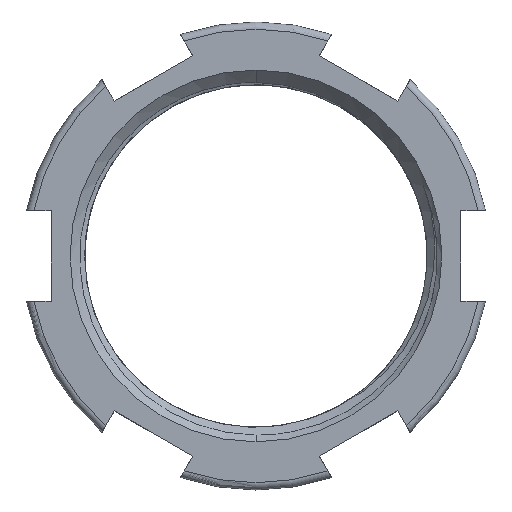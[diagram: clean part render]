
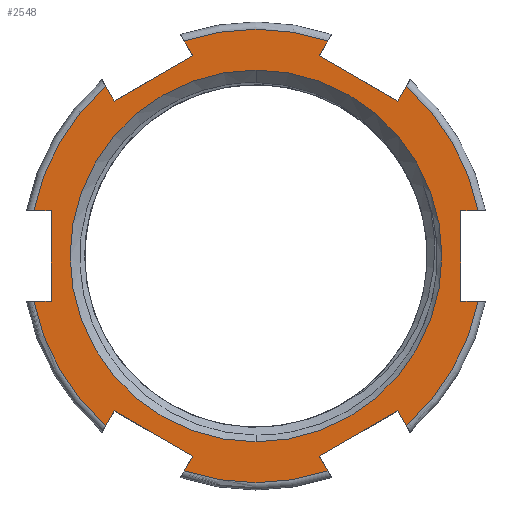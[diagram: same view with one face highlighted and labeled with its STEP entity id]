
A CAD part, top view. The second image highlights one B-rep face of the part: STEP entity #2548.
In plain terms, the highlighted planar face has unit normal (0, 0, 1).
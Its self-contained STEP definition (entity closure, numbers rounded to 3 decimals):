
#452=DIRECTION('',(0.866,0.5,0.));
#453=VECTOR('',#452,2.5);
#454=CARTESIAN_POINT('',(-3.908,4.268,1.25));
#455=LINE('',#454,#453);
#459=DIRECTION('',(-0.5,0.866,0.));
#460=VECTOR('',#459,0.474);
#461=CARTESIAN_POINT('',(-1.742,5.518,1.25));
#462=LINE('',#461,#460);
#466=DIRECTION('',(-0.5,-0.866,0.));
#467=VECTOR('',#466,0.474);
#468=CARTESIAN_POINT('',(1.979,5.928,1.25));
#469=LINE('',#468,#467);
#473=DIRECTION('',(0.866,-0.5,0.));
#474=VECTOR('',#473,2.5);
#475=CARTESIAN_POINT('',(1.742,5.518,1.25));
#476=LINE('',#475,#474);
#480=DIRECTION('',(0.5,0.866,0.));
#481=VECTOR('',#480,0.474);
#482=CARTESIAN_POINT('',(3.908,4.268,1.25));
#483=LINE('',#482,#481);
#487=DIRECTION('',(-1.,0.,0.));
#488=VECTOR('',#487,0.474);
#489=CARTESIAN_POINT('',(6.124,1.25,1.25));
#490=LINE('',#489,#488);
#494=DIRECTION('',(0.,-1.,0.));
#495=VECTOR('',#494,2.5);
#496=CARTESIAN_POINT('',(5.65,1.25,1.25));
#497=LINE('',#496,#495);
#501=DIRECTION('',(-1.,0.,0.));
#502=VECTOR('',#501,0.474);
#503=CARTESIAN_POINT('',(6.124,-1.25,1.25));
#504=LINE('',#503,#502);
#508=DIRECTION('',(-0.5,0.866,0.));
#509=VECTOR('',#508,0.474);
#510=CARTESIAN_POINT('',(4.144,-4.678,1.25));
#511=LINE('',#510,#509);
#515=DIRECTION('',(-0.866,-0.5,0.));
#516=VECTOR('',#515,2.5);
#517=CARTESIAN_POINT('',(3.908,-4.268,1.25));
#518=LINE('',#517,#516);
#522=DIRECTION('',(0.5,-0.866,0.));
#523=VECTOR('',#522,0.474);
#524=CARTESIAN_POINT('',(1.742,-5.518,1.25));
#525=LINE('',#524,#523);
#529=DIRECTION('',(0.5,0.866,0.));
#530=VECTOR('',#529,0.474);
#531=CARTESIAN_POINT('',(-1.979,-5.928,1.25));
#532=LINE('',#531,#530);
#536=DIRECTION('',(-0.866,0.5,0.));
#537=VECTOR('',#536,2.5);
#538=CARTESIAN_POINT('',(-1.742,-5.518,1.25));
#539=LINE('',#538,#537);
#543=DIRECTION('',(-0.5,-0.866,0.));
#544=VECTOR('',#543,0.474);
#545=CARTESIAN_POINT('',(-3.908,-4.268,1.25));
#546=LINE('',#545,#544);
#550=DIRECTION('',(1.,0.,0.));
#551=VECTOR('',#550,0.474);
#552=CARTESIAN_POINT('',(-6.124,-1.25,1.25));
#553=LINE('',#552,#551);
#557=DIRECTION('',(0.,1.,0.));
#558=VECTOR('',#557,2.5);
#559=CARTESIAN_POINT('',(-5.65,-1.25,1.25));
#560=LINE('',#559,#558);
#564=DIRECTION('',(1.,0.,0.));
#565=VECTOR('',#564,0.474);
#566=CARTESIAN_POINT('',(-6.124,1.25,1.25));
#567=LINE('',#566,#565);
#571=DIRECTION('',(0.5,-0.866,0.));
#572=VECTOR('',#571,0.474);
#573=CARTESIAN_POINT('',(-4.144,4.678,1.25));
#574=LINE('',#573,#572);
#578=CARTESIAN_POINT('',(0.,0.,1.25));
#579=DIRECTION('',(0.,0.,1.));
#580=DIRECTION('',(0.,1.,0.));
#581=AXIS2_PLACEMENT_3D('',#578,#579,#580);
#586=CARTESIAN_POINT('',(0.,0.,1.25));
#587=DIRECTION('',(0.,0.,1.));
#588=DIRECTION('',(0.,-1.,0.));
#589=AXIS2_PLACEMENT_3D('',#586,#587,#588);
#834=CARTESIAN_POINT('',(0.,0.,1.25));
#835=DIRECTION('',(0.,0.,1.));
#836=DIRECTION('',(0.98,0.2,0.));
#837=AXIS2_PLACEMENT_3D('',#834,#835,#836);
#875=CARTESIAN_POINT('',(0.,0.,1.25));
#876=DIRECTION('',(0.,0.,1.));
#877=DIRECTION('',(0.663,-0.749,0.));
#878=AXIS2_PLACEMENT_3D('',#875,#876,#877);
#916=CARTESIAN_POINT('',(0.,0.,1.25));
#917=DIRECTION('',(0.,0.,1.));
#918=DIRECTION('',(-0.317,-0.949,0.));
#919=AXIS2_PLACEMENT_3D('',#916,#917,#918);
#957=CARTESIAN_POINT('',(0.,0.,1.25));
#958=DIRECTION('',(0.,0.,1.));
#959=DIRECTION('',(-0.98,-0.2,0.));
#960=AXIS2_PLACEMENT_3D('',#957,#958,#959);
#1019=CARTESIAN_POINT('',(0.,0.,1.25));
#1020=DIRECTION('',(0.,0.,1.));
#1021=DIRECTION('',(0.317,0.949,0.));
#1022=AXIS2_PLACEMENT_3D('',#1019,#1020,#1021);
#1039=CARTESIAN_POINT('',(0.,0.,1.25));
#1040=DIRECTION('',(0.,0.,1.));
#1041=DIRECTION('',(-0.663,0.749,0.));
#1042=AXIS2_PLACEMENT_3D('',#1039,#1040,#1041);
#2103=CARTESIAN_POINT('',(1.979,5.928,1.25));
#2104=CARTESIAN_POINT('',(1.742,5.518,1.25));
#2105=VERTEX_POINT('',#2103);
#2106=VERTEX_POINT('',#2104);
#2107=CARTESIAN_POINT('',(3.908,4.268,1.25));
#2108=VERTEX_POINT('',#2107);
#2109=CARTESIAN_POINT('',(4.144,4.678,1.25));
#2110=VERTEX_POINT('',#2109);
#2135=CARTESIAN_POINT('',(5.65,1.25,1.25));
#2136=CARTESIAN_POINT('',(5.65,-1.25,1.25));
#2137=VERTEX_POINT('',#2135);
#2138=VERTEX_POINT('',#2136);
#2139=CARTESIAN_POINT('',(6.124,-1.25,1.25));
#2140=VERTEX_POINT('',#2139);
#2141=CARTESIAN_POINT('',(6.124,1.25,1.25));
#2142=VERTEX_POINT('',#2141);
#2161=CARTESIAN_POINT('',(3.908,-4.268,1.25));
#2162=CARTESIAN_POINT('',(1.742,-5.518,1.25));
#2163=VERTEX_POINT('',#2161);
#2164=VERTEX_POINT('',#2162);
#2165=CARTESIAN_POINT('',(1.979,-5.928,1.25));
#2166=VERTEX_POINT('',#2165);
#2167=CARTESIAN_POINT('',(4.144,-4.678,1.25));
#2168=VERTEX_POINT('',#2167);
#2187=CARTESIAN_POINT('',(-1.742,-5.518,1.25));
#2188=CARTESIAN_POINT('',(-3.908,-4.268,1.25));
#2189=VERTEX_POINT('',#2187);
#2190=VERTEX_POINT('',#2188);
#2191=CARTESIAN_POINT('',(-4.144,-4.678,1.25));
#2192=VERTEX_POINT('',#2191);
#2193=CARTESIAN_POINT('',(-1.979,-5.928,1.25));
#2194=VERTEX_POINT('',#2193);
#2213=CARTESIAN_POINT('',(-5.65,-1.25,1.25));
#2214=CARTESIAN_POINT('',(-5.65,1.25,1.25));
#2215=VERTEX_POINT('',#2213);
#2216=VERTEX_POINT('',#2214);
#2217=CARTESIAN_POINT('',(-6.124,1.25,1.25));
#2218=VERTEX_POINT('',#2217);
#2219=CARTESIAN_POINT('',(-6.124,-1.25,1.25));
#2220=VERTEX_POINT('',#2219);
#2239=CARTESIAN_POINT('',(-3.908,4.268,1.25));
#2240=CARTESIAN_POINT('',(-1.742,5.518,1.25));
#2241=VERTEX_POINT('',#2239);
#2242=VERTEX_POINT('',#2240);
#2243=CARTESIAN_POINT('',(-1.979,5.928,1.25));
#2244=VERTEX_POINT('',#2243);
#2245=CARTESIAN_POINT('',(-4.144,4.678,1.25));
#2246=VERTEX_POINT('',#2245);
#2289=CARTESIAN_POINT('',(0.,5.125,1.25));
#2290=CARTESIAN_POINT('',(0.,-5.125,1.25));
#2291=VERTEX_POINT('',#2289);
#2292=VERTEX_POINT('',#2290);
#2489=CARTESIAN_POINT('',(0.,0.,1.25));
#2490=DIRECTION('',(0.,0.,1.));
#2491=DIRECTION('',(1.,0.,0.));
#2492=AXIS2_PLACEMENT_3D('',#2489,#2490,#2491);
#2493=PLANE('',#2492);
#2494=ORIENTED_EDGE('',*,*,#2347,.T.);
#2496=ORIENTED_EDGE('',*,*,#2495,.T.);
#2498=ORIENTED_EDGE('',*,*,#2497,.F.);
#2500=ORIENTED_EDGE('',*,*,#2499,.T.);
#2502=ORIENTED_EDGE('',*,*,#2501,.T.);
#2504=ORIENTED_EDGE('',*,*,#2503,.T.);
#2506=ORIENTED_EDGE('',*,*,#2505,.F.);
#2507=ORIENTED_EDGE('',*,*,#2473,.T.);
#2509=ORIENTED_EDGE('',*,*,#2508,.T.);
#2511=ORIENTED_EDGE('',*,*,#2510,.F.);
#2513=ORIENTED_EDGE('',*,*,#2512,.F.);
#2515=ORIENTED_EDGE('',*,*,#2514,.T.);
#2517=ORIENTED_EDGE('',*,*,#2516,.T.);
#2519=ORIENTED_EDGE('',*,*,#2518,.T.);
#2521=ORIENTED_EDGE('',*,*,#2520,.F.);
#2523=ORIENTED_EDGE('',*,*,#2522,.T.);
#2525=ORIENTED_EDGE('',*,*,#2524,.T.);
#2527=ORIENTED_EDGE('',*,*,#2526,.T.);
#2529=ORIENTED_EDGE('',*,*,#2528,.F.);
#2531=ORIENTED_EDGE('',*,*,#2530,.T.);
#2533=ORIENTED_EDGE('',*,*,#2532,.T.);
#2535=ORIENTED_EDGE('',*,*,#2534,.F.);
#2537=ORIENTED_EDGE('',*,*,#2536,.F.);
#2539=ORIENTED_EDGE('',*,*,#2538,.T.);
#2540=EDGE_LOOP('',(#2494,#2496,#2498,#2500,#2502,#2504,#2506,#2507,#2509,#2511,
#2513,#2515,#2517,#2519,#2521,#2523,#2525,#2527,#2529,#2531,#2533,#2535,#2537,
#2539));
#2541=FACE_OUTER_BOUND('',#2540,.F.);
#2543=ORIENTED_EDGE('',*,*,#2542,.T.);
#2545=ORIENTED_EDGE('',*,*,#2544,.T.);
#2546=EDGE_LOOP('',(#2543,#2545));
#2547=FACE_BOUND('',#2546,.F.);
#582=CIRCLE('',#581,5.125);
#590=CIRCLE('',#589,5.125);
#838=CIRCLE('',#837,6.25);
#879=CIRCLE('',#878,6.25);
#920=CIRCLE('',#919,6.25);
#961=CIRCLE('',#960,6.25);
#1023=CIRCLE('',#1022,6.25);
#1043=CIRCLE('',#1042,6.25);
#2347=EDGE_CURVE('',#2241,#2242,#455,.T.);
#2473=EDGE_CURVE('',#2142,#2137,#490,.T.);
#2495=EDGE_CURVE('',#2242,#2244,#462,.T.);
#2497=EDGE_CURVE('',#2105,#2244,#1023,.T.);
#2499=EDGE_CURVE('',#2105,#2106,#469,.T.);
#2501=EDGE_CURVE('',#2106,#2108,#476,.T.);
#2503=EDGE_CURVE('',#2108,#2110,#483,.T.);
#2505=EDGE_CURVE('',#2142,#2110,#838,.T.);
#2508=EDGE_CURVE('',#2137,#2138,#497,.T.);
#2510=EDGE_CURVE('',#2140,#2138,#504,.T.);
#2512=EDGE_CURVE('',#2168,#2140,#879,.T.);
#2514=EDGE_CURVE('',#2168,#2163,#511,.T.);
#2516=EDGE_CURVE('',#2163,#2164,#518,.T.);
#2518=EDGE_CURVE('',#2164,#2166,#525,.T.);
#2520=EDGE_CURVE('',#2194,#2166,#920,.T.);
#2522=EDGE_CURVE('',#2194,#2189,#532,.T.);
#2524=EDGE_CURVE('',#2189,#2190,#539,.T.);
#2526=EDGE_CURVE('',#2190,#2192,#546,.T.);
#2528=EDGE_CURVE('',#2220,#2192,#961,.T.);
#2530=EDGE_CURVE('',#2220,#2215,#553,.T.);
#2532=EDGE_CURVE('',#2215,#2216,#560,.T.);
#2534=EDGE_CURVE('',#2218,#2216,#567,.T.);
#2536=EDGE_CURVE('',#2246,#2218,#1043,.T.);
#2538=EDGE_CURVE('',#2246,#2241,#574,.T.);
#2542=EDGE_CURVE('',#2291,#2292,#582,.T.);
#2544=EDGE_CURVE('',#2292,#2291,#590,.T.);
#2548=ADVANCED_FACE('',(#2541,#2547),#2493,.T.);
